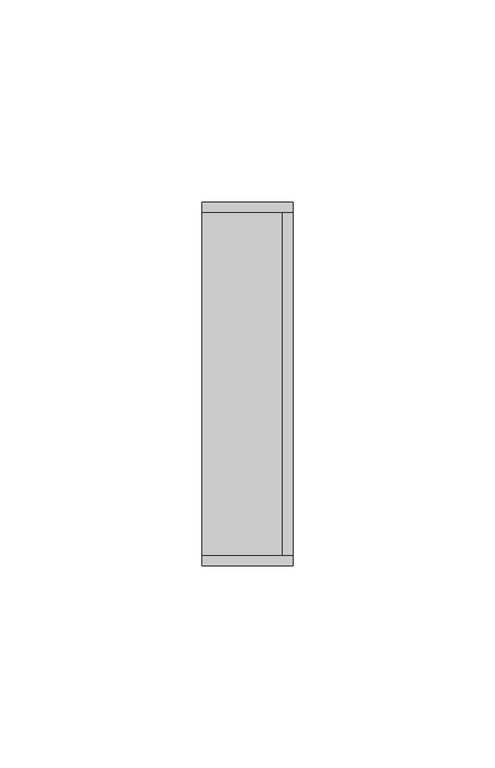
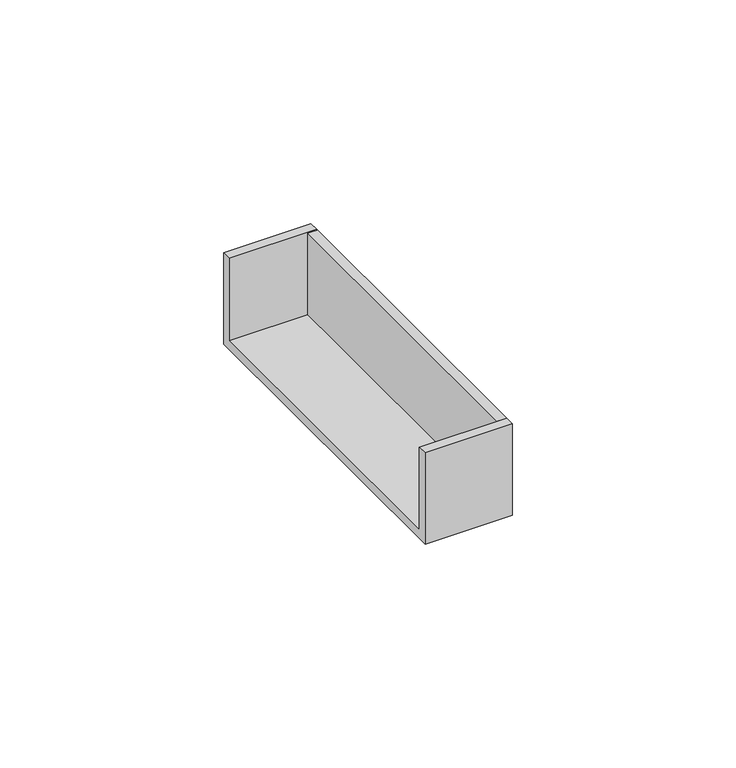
"""IFC4 building model written with IfcOpenShell, lengths in millimetres: cable carrier fitting geometry, КНС_ЗаглушкаТорцевая_ILF_DKC : Заглушка."""

from ifc_helpers import new_model, si_unit, frame, origin, place, context, project, spatial, polyline, outline, extrude, source, transform, mapped, element, save


def cable_carrier_fitting_9637789e(model_context):
    return source(origin(), model_context, "Body", "SweptSolid", [
        extrude(outline(polyline([(45.0, -12.5), (-45.0, -12.5), (-45.0, 12.5), (-42.5, 12.5), (-42.5, -10.0), (42.5, -10.0), (42.5, 12.5), (45.0, 12.5), (45.0, -12.5)])), frame((-22.5, 0.0, 0.0), z_axis=(1.0, 0.0, 0.0), x_axis=(0.0, 1.0, 0.0)), (0.0, 0.0, 1.0), 22.5),
        extrude(outline(polyline([(0.0, 42.5), (0.0, -42.5), (-2.5, -42.5), (-2.5, 42.5), (0.0, 42.5)])), frame((0.0, 0.0, -12.5), z_axis=(0.0, 0.0, 1.0), x_axis=(1.0, 0.0, 0.0)), (0.0, 0.0, 1.0), 25.0),
    ])


if __name__ == "__main__":
    model = new_model("IFC4")
    model_context = context("Model", 3, world=origin())
    ifc_project = project(units=[si_unit("LENGTHUNIT", "METRE", prefix="MILLI")], contexts=[model_context])
    site = spatial("IfcSite", under=ifc_project)
    building = spatial("IfcBuilding", under=site)
    placement = place(None, origin())
    cable_carrier_fitting_shape = cable_carrier_fitting_9637789e(model_context)
    element("IfcCableCarrierFitting", 1, ObjectType="КНС_ЗаглушкаТорцевая_ILF_DKC : Заглушка", at=placement, inside=building, context=model_context, shape_type="MappedRepresentation", body=[
        mapped(cable_carrier_fitting_shape, transform((0.0, 0.0, 0.0), x_axis=(1.0, 0.0, 0.0), y_axis=(0.0, 1.0, 0.0), z_axis=(0.0, 0.0, 1.0))),
    ])
    save(model, "model.ifc")
